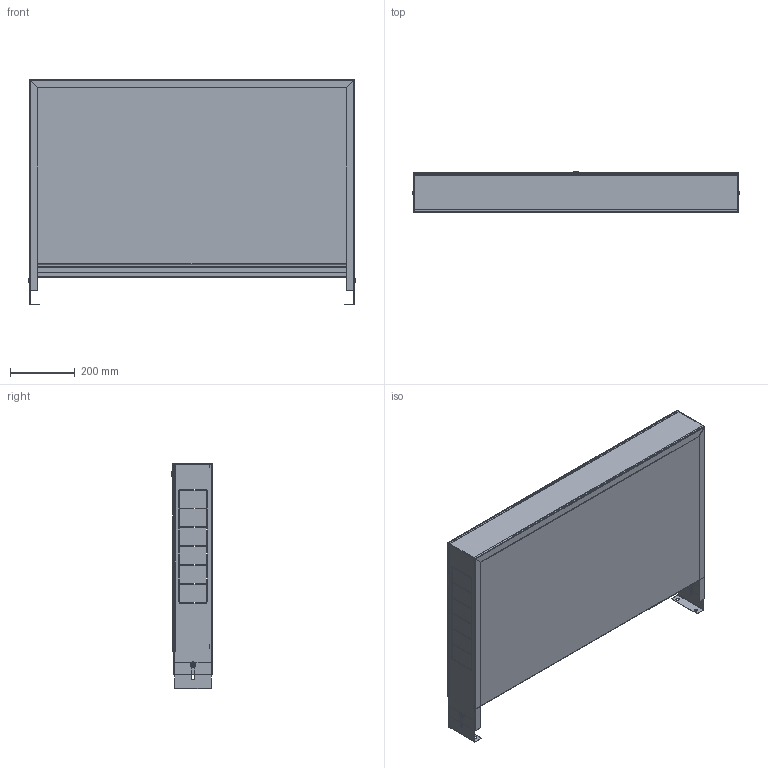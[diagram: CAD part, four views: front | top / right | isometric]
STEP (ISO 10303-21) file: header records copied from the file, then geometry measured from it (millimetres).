
FILE_DESCRIPTION(('TFLEX Exchange Step'),'2;1');
FILE_NAME('Manifold cabinet VTc.541.0.05 Valtec.stp', '2023-10-11T13:51:48+03:00',('denis'),('Unknown organisation'),'TFLEX Exchange 2023.0','T-FLEX CAD','Unknown authorisation');
FILE_SCHEMA( ('AUTOMOTIVE_DESIGN { 1 0 10303 214 1 1 1 1 }') );
Length unit declared in the file: millimetre
Products named in the file (1): Nodes
Bounding box: 1009 x 124.9 x 695 mm (x, y, z)
Volume: 1332634.8 mm3; surface area: 3239358.2 mm2
Topology: 9 solids, 10 shells, 504 faces, 1335 edges, 859 vertices
Faces by surface type: plane 372, cylinder 87, cone 31, bspline 12, torus 2
Full cylindrical faces by diameter (mm): 6 x4, 6.4 x2, 7 x2, 10 x5, 12 x1, 16 x1, 18 x2, 20 x2
Entity records: 18079 total; most frequent: CARTESIAN_POINT 5474, ORIENTED_EDGE 2670, DIRECTION 2391, EDGE_CURVE 1335, VECTOR 1009, LINE 1009, VERTEX_POINT 859, AXIS2_PLACEMENT_3D 691
